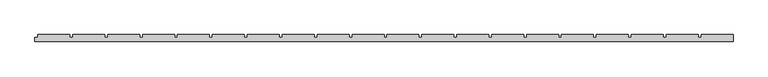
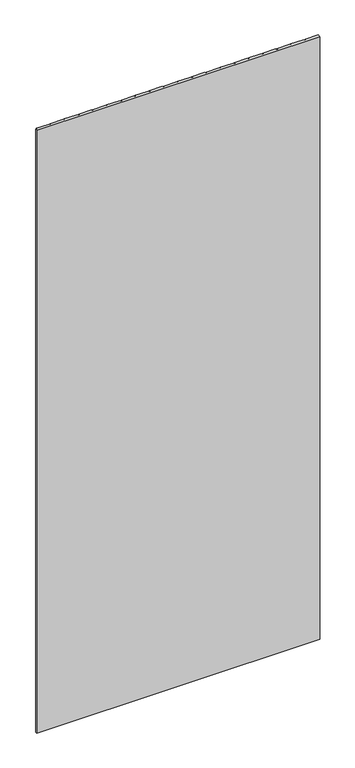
"""IFC4 building model written with IfcOpenShell, lengths in millimetres: proxy geometry, 60 12mmSC."""

from ifc_helpers import new_model, si_unit, origin, origin_with_axes, place, context, project, spatial, polyline, outline, extrude, source, transform, mapped, element, save


def generic_models_6df9696b(model_context):
    return source(origin(), model_context, "Body", "SweptSolid", [
        extrude(outline(polyline([(4545.0, -13032.3739744), (4600.0, -13032.3739744), (4600.0, -13044.3739744), (3400.0, -13044.3739744), (3400.0, -13037.3739744), (3405.0, -13037.3739744), (3405.0, -13032.3739744), (3460.0, -13032.3739744), (3460.0, -13037.3739744), (3465.0, -13037.3739744), (3465.0, -13032.3739744), (3520.0, -13032.3739744), (3520.0, -13037.3739744), (3525.0, -13037.3739744), (3525.0, -13032.3739744), (3580.0, -13032.3739744), (3580.0, -13037.3739744), (3585.0, -13037.3739744), (3585.0, -13032.3739744), (3640.0, -13032.3739744), (3640.0, -13037.3739744), (3645.0, -13037.3739744), (3645.0, -13032.3739744), (3700.0, -13032.3739744), (3700.0, -13037.3739744), (3705.0, -13037.3739744), (3705.0, -13032.3739744), (3760.0, -13032.3739744), (3760.0, -13037.3739744), (3765.0, -13037.3739744), (3765.0, -13032.3739744), (3820.0, -13032.3739744), (3820.0, -13037.3739744), (3825.0, -13037.3739744), (3825.0, -13032.3739744), (3880.0, -13032.3739744), (3880.0, -13037.3739744), (3885.0, -13037.3739744), (3885.0, -13032.3739744), (3940.0, -13032.3739744), (3940.0, -13037.3739744), (3945.0, -13037.3739744), (3945.0, -13032.3739744), (4000.0, -13032.3739744), (4000.0, -13037.3739744), (4005.0, -13037.3739744), (4005.0, -13032.3739744), (4060.0, -13032.3739744), (4060.0, -13037.3739744), (4065.0, -13037.3739744), (4065.0, -13032.3739744), (4120.0, -13032.3739744), (4120.0, -13037.3739744), (4125.0, -13037.3739744), (4125.0, -13032.3739744), (4180.0, -13032.3739744), (4180.0, -13037.3739744), (4185.0, -13037.3739744), (4185.0, -13032.3739744), (4240.0, -13032.3739744), (4240.0, -13037.3739744), (4245.0, -13037.3739744), (4245.0, -13032.3739744), (4300.0, -13032.3739744), (4300.0, -13037.3739744), (4305.0, -13037.3739744), (4305.0, -13032.3739744), (4360.0, -13032.3739744), (4360.0, -13037.3739744), (4365.0, -13037.3739744), (4365.0, -13032.3739744), (4420.0, -13032.3739744), (4420.0, -13037.3739744), (4425.0, -13037.3739744), (4425.0, -13032.3739744), (4480.0, -13032.3739744), (4480.0, -13037.3739744), (4485.0, -13037.3739744), (4485.0, -13032.3739744), (4540.0, -13032.3739744), (4540.0, -13037.3739744), (4545.0, -13037.3739744), (4545.0, -13032.3739744)])), origin_with_axes(), (0.0, 0.0, 1.0), 2700.0),
    ])


if __name__ == "__main__":
    model = new_model("IFC4")
    model_context = context("Model", 3, world=origin())
    ifc_project = project(units=[si_unit("LENGTHUNIT", "METRE", prefix="MILLI")], contexts=[model_context])
    site = spatial("IfcSite", under=ifc_project)
    building = spatial("IfcBuilding", under=site)
    placement = place(None, origin())
    generic_models_shape = generic_models_6df9696b(model_context)
    element("IfcBuildingElementProxy", 1, Name="60 12mmSC", ObjectType="60 12mmSC", at=placement, inside=building, context=model_context, shape_type="MappedRepresentation", body=[
        mapped(generic_models_shape, transform((0.0, 0.0, 0.0), x_axis=(1.0, 0.0, 0.0), y_axis=(0.0, 1.0, 0.0), z_axis=(0.0, 0.0, 1.0))),
    ])
    save(model, "model.ifc")
